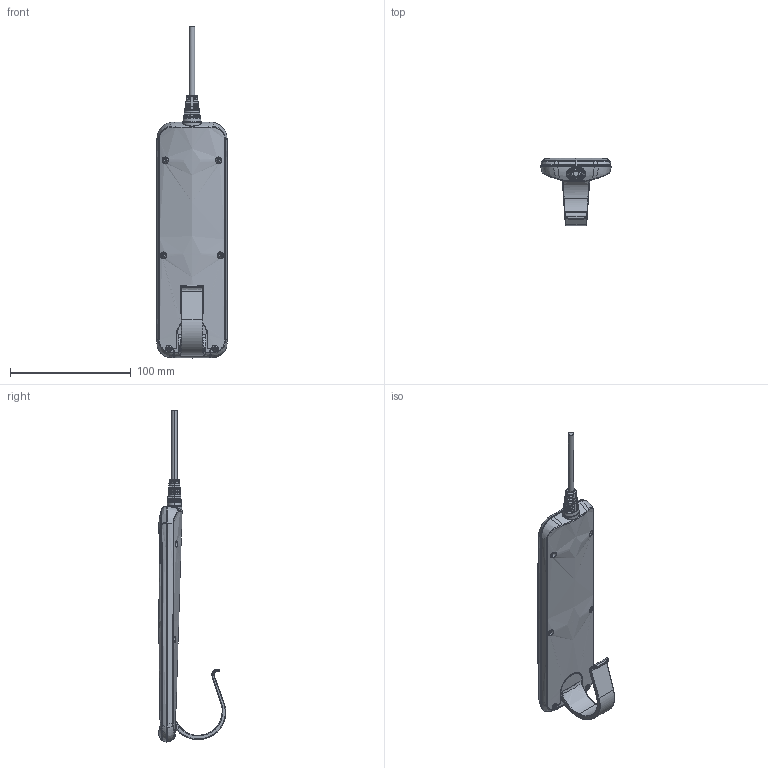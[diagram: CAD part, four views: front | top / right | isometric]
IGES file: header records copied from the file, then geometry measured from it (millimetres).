
Start section: SolidWorks IGES file using NURBS representation for surfaces
Global section: file name: C:\Users\lynn\Desktop\HS12.IGS; native system: SolidWorks 2015; preprocessor: SolidWorks 2015; author: lynn; date: 191128.140110; units: millimetre
Bounding box: 58 x 55.97 x 274.5 mm (x, y, z)
Surface area: 70494.5 mm2 (no closed solid volume)
Topology: 0 solids, 0 shells, 2268 faces, 22870 edges, 22847 vertices
Faces by surface type: bspline 2268
